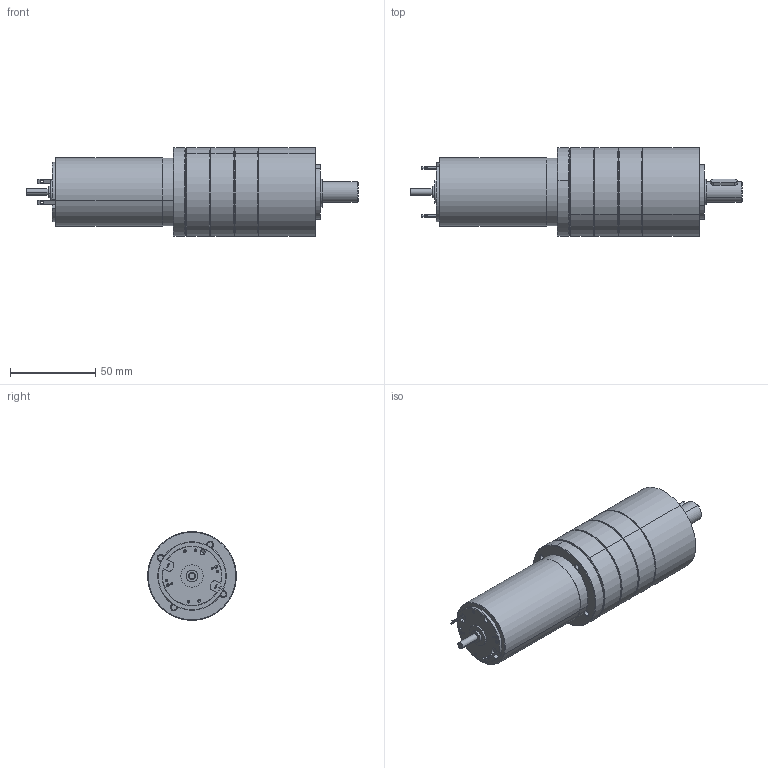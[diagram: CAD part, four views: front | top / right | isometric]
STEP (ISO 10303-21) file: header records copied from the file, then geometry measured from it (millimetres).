
FILE_DESCRIPTION (( 'STEP AP214' ), '1' );
FILE_NAME ('RE40_+_PM52-3etages.STEP', '2014-03-03T08:05:35', ( '' ), ( '' ), 'SwSTEP 2.0', 'SolidWorks 2013', '' );
FILE_SCHEMA (( 'AUTOMOTIVE_DESIGN' ));
Length unit declared in the file: millimetre
Products named in the file (16): D912_M4X10_1; MOTORFLANSCH_1240398; PM52 pour RE40 - 1249626; SCHRAUBE_1241978_6; 8006230_ZAHNKRANZ_Z46_2; 8006405_DICHTRING_2; 4X4X16_D6885A_2; D471_12X1_5_2; 8102168_ABTRIEB_LK1_KPL_2; GK2152_POS31_2_LAGERBOLZEN_2; 8101171_ABTRIEB_ROHTEIL_AF0_2; DIN998_PS_12X18X1_2; D625-6001-2RS_2; 8006231_LAGERFLANSCH_2; RE40G_Part; RE40_+_PM52-3etages
Assembly tree (29 placements, depth 4):
  RE40_+_PM52-3etages
    RE40G_Part
    PM52 pour RE40 - 1249626
      8006231_LAGERFLANSCH_2
      D625-6001-2RS_2  x2
      DIN998_PS_12X18X1_2  x2
      8102168_ABTRIEB_LK1_KPL_2
        8101171_ABTRIEB_ROHTEIL_AF0_2
        GK2152_POS31_2_LAGERBOLZEN_2  x3
      D471_12X1_5_2
      4X4X16_D6885A_2
      8006405_DICHTRING_2  x2
      8006230_ZAHNKRANZ_Z46_2
      SCHRAUBE_1241978_6  x4
    MOTORFLANSCH_1240398
    D912_M4X10_1  x3
    8006405_DICHTRING_2  x2
    8006230_ZAHNKRANZ_Z46_2  x2
Bounding box: 194.5 x 52 x 52 mm (x, y, z)
Volume: 141497 mm3; surface area: 90565.7 mm2
Topology: 21 solids, 49 shells, 1327 faces, 3480 edges, 2254 vertices
Faces by surface type: cylinder 641, plane 488, cone 144, bspline 54
Entity records: 24117 total; most frequent: CARTESIAN_POINT 4840, DIRECTION 3895, ORIENTED_EDGE 3420, EDGE_CURVE 1732, AXIS2_PLACEMENT_3D 1503, VERTEX_POINT 1128, LINE 889, VECTOR 889
